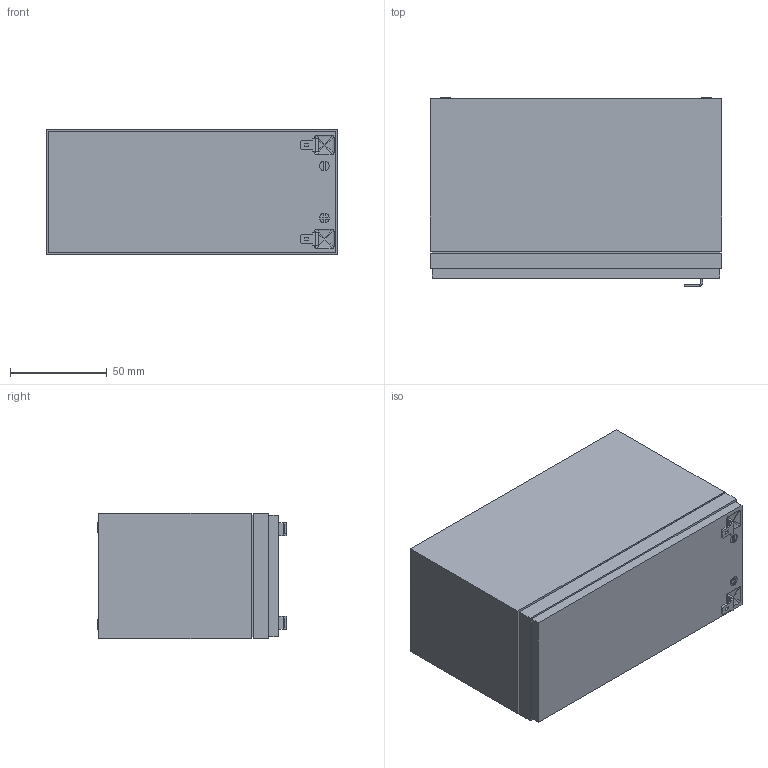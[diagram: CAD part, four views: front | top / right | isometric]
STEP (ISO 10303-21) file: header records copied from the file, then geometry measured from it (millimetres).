
FILE_DESCRIPTION (( 'STEP AP203' ), '1' );
FILE_NAME ('PB 7.5Ah.STEP', '2018-03-28T11:46:18', ( '' ), ( '' ), 'SwSTEP 2.0', 'SolidWorks 2018', '' );
FILE_SCHEMA (( 'CONFIG_CONTROL_DESIGN' ));
Length unit declared in the file: millimetre
Products named in the file (1): PB 7.5Ah
Bounding box: 151 x 97.67 x 65 mm (x, y, z)
Volume: 910301.4 mm3; surface area: 61024.8 mm2
Topology: 1 solids, 1 shells, 127 faces, 320 edges, 194 vertices
Faces by surface type: plane 83, cylinder 26, bspline 18
Entity records: 3803 total; most frequent: CARTESIAN_POINT 856, ORIENTED_EDGE 608, DIRECTION 540, EDGE_CURVE 304, LINE 216, VECTOR 216, VERTEX_POINT 194, AXIS2_PLACEMENT_3D 162
